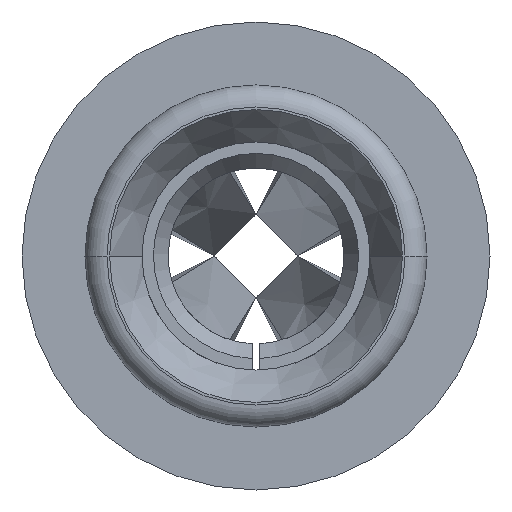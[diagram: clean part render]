
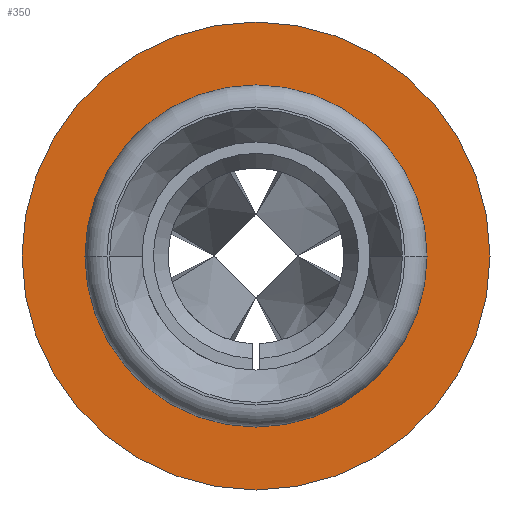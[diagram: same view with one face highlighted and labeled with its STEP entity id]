
A CAD part, left-side view. The second image highlights one B-rep face of the part: STEP entity #350.
In plain terms, the highlighted planar face has unit normal (-1, 0, 0).
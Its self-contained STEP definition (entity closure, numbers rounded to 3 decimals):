
#12=CARTESIAN_POINT('',(0.45,0.,0.));
#13=DIRECTION('',(-1.,0.,0.));
#14=DIRECTION('',(0.,1.,0.));
#15=AXIS2_PLACEMENT_3D('',#12,#13,#14);
#21=CARTESIAN_POINT('',(0.45,0.,0.));
#22=DIRECTION('',(1.,0.,0.));
#23=DIRECTION('',(0.,1.,0.));
#24=AXIS2_PLACEMENT_3D('',#21,#22,#23);
#37=CARTESIAN_POINT('',(0.45,0.,0.));
#38=DIRECTION('',(1.,0.,0.));
#39=DIRECTION('',(0.,1.,0.));
#40=AXIS2_PLACEMENT_3D('',#37,#38,#39);
#274=CARTESIAN_POINT('',(0.45,0.,0.));
#275=DIRECTION('',(-1.,0.,0.));
#276=DIRECTION('',(0.,1.,0.));
#277=AXIS2_PLACEMENT_3D('',#274,#275,#276);
#290=CARTESIAN_POINT('',(0.45,1.59,0.));
#292=VERTEX_POINT('',#290);
#294=CARTESIAN_POINT('',(0.45,-1.59,0.));
#296=VERTEX_POINT('',#294);
#317=CARTESIAN_POINT('',(0.45,1.163,0.));
#318=CARTESIAN_POINT('',(0.45,-1.163,0.));
#319=VERTEX_POINT('',#317);
#320=VERTEX_POINT('',#318);
#333=CARTESIAN_POINT('',(0.45,0.,0.));
#334=DIRECTION('',(1.,0.,0.));
#335=DIRECTION('',(0.,-1.,0.));
#336=AXIS2_PLACEMENT_3D('',#333,#334,#335);
#337=PLANE('',#336);
#339=ORIENTED_EDGE('',*,*,#338,.F.);
#341=ORIENTED_EDGE('',*,*,#340,.T.);
#342=EDGE_LOOP('',(#339,#341));
#343=FACE_OUTER_BOUND('',#342,.F.);
#345=ORIENTED_EDGE('',*,*,#344,.F.);
#347=ORIENTED_EDGE('',*,*,#346,.T.);
#348=EDGE_LOOP('',(#345,#347));
#349=FACE_BOUND('',#348,.F.);
#350=ADVANCED_FACE('',(#343,#349),#337,.F.);
#16=CIRCLE('',#15,1.59);
#25=CIRCLE('',#24,1.59);
#41=CIRCLE('',#40,1.163);
#278=CIRCLE('',#277,1.163);
#338=EDGE_CURVE('',#292,#296,#16,.T.);
#340=EDGE_CURVE('',#292,#296,#25,.T.);
#344=EDGE_CURVE('',#319,#320,#41,.T.);
#346=EDGE_CURVE('',#319,#320,#278,.T.);
